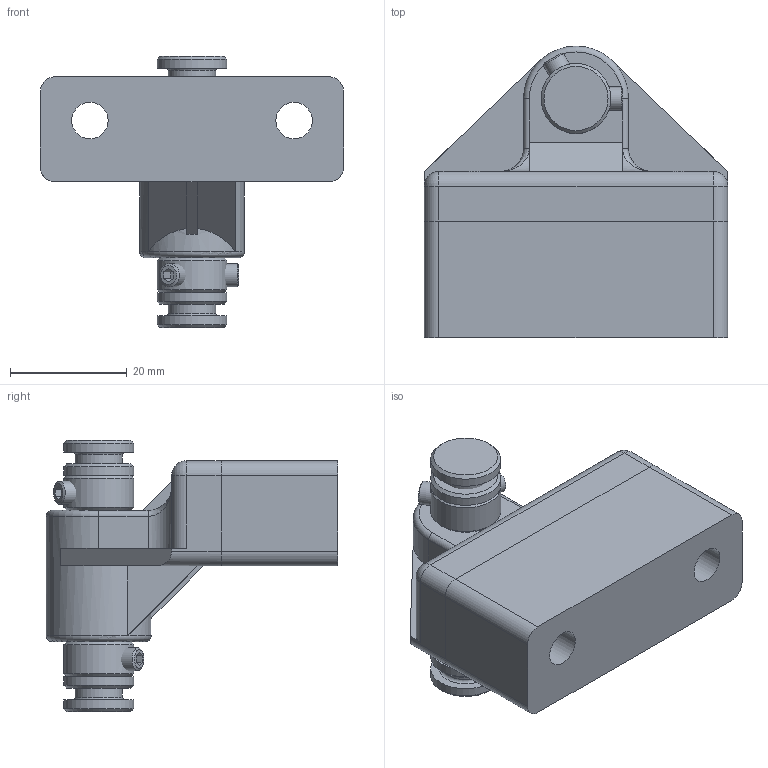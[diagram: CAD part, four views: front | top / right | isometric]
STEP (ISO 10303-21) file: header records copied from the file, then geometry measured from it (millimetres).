
FILE_DESCRIPTION (( 'STEP AP214' ), '1' );
FILE_NAME ('L19142 ENS AVEC ACCESSOIRES.step', '2024-12-03T16:24:29', ( '' ), ( '' ), 'SwSTEP 2.0', 'SolidWorks 2023', '' );
FILE_SCHEMA (( 'AUTOMOTIVE_DESIGN' ));
Length unit declared in the file: millimetre
Products named in the file (7): L19142 ENS AVEC ACCESSOIRES; L19142; AMP25-003 entretoise_verin_Hauteur 20mm; AMI25-002 AXE VERIN POUR QS19; socket set screw cone point_APC_Vis HC - M4 x 5N BPo; N90809; AMI25-001 AXE VERIN POUR QS15
Assembly tree (12 placements, depth 2):
  L19142 ENS AVEC ACCESSOIRES
    L19142
    AMP25-003 entretoise_verin_Hauteur 20mm
    N90809  x2
    socket set screw cone point_APC_Vis HC - M4 x 5N BPo  x4
    AMI25-001 AXE VERIN POUR QS15  x2
    AMI25-002 AXE VERIN POUR QS19  x2
Bounding box: 52 x 50 x 46.5 mm (x, y, z)
Volume: 38531 mm3; surface area: 16485.3 mm2
Topology: 12 solids, 12 shells, 166 faces, 379 edges, 235 vertices
Faces by surface type: plane 84, cylinder 48, cone 22, torus 8, sphere 2, bspline 2
Full cylindrical faces by diameter (mm): 3.3 x4, 4 x4, 5.9 x4, 6 x3, 6.25 x4, 8.1 x2, 10.25 x2, 12 x6
Entity records: 3388 total; most frequent: CARTESIAN_POINT 840, DIRECTION 507, ORIENTED_EDGE 418, EDGE_CURVE 209, AXIS2_PLACEMENT_3D 200, EDGE_LOOP 156, VERTEX_POINT 149, FACE_OUTER_BOUND 127
